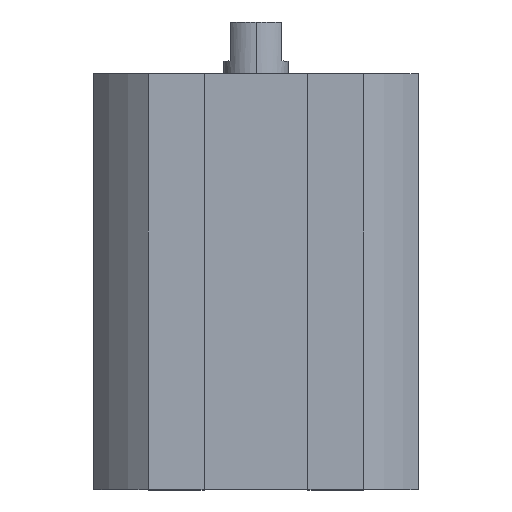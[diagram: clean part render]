
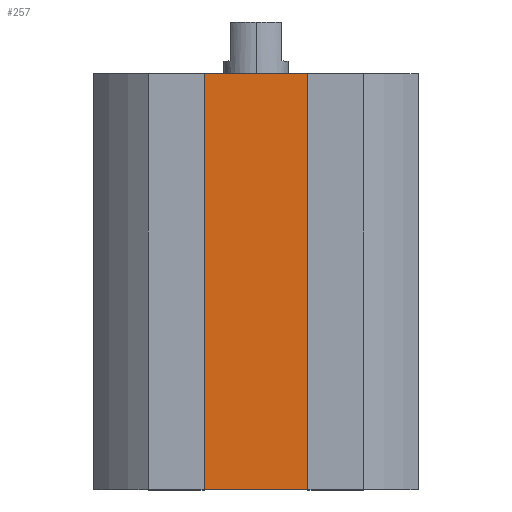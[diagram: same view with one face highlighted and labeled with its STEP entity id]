
A CAD part, top view. The second image highlights one B-rep face of the part: STEP entity #257.
In plain terms, the highlighted planar face has unit normal (0, 0, 1).
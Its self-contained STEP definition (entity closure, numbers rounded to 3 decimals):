
#17 = VERTEX_POINT ( 'NONE', #530 ) ;
#22 = DIRECTION ( 'NONE',  ( 1., 0., 0. ) ) ;
#35 = CARTESIAN_POINT ( 'NONE',  ( 0., -32., 7.8 ) ) ;
#130 = VECTOR ( 'NONE', #1937, 1000. ) ;
#162 = LINE ( 'NONE', #258, #288 ) ;
#195 = ORIENTED_EDGE ( 'NONE', *, *, #265, .F. ) ;
#257 = ADVANCED_FACE ( 'NONE', ( #1798 ), #1096, .T. ) ;
#258 = CARTESIAN_POINT ( 'NONE',  ( 0., 0., 7.8 ) ) ;
#265 = EDGE_CURVE ( 'NONE', #1578, #17, #402, .T. ) ;
#288 = VECTOR ( 'NONE', #1468, 1000. ) ;
#349 = ORIENTED_EDGE ( 'NONE', *, *, #748, .T. ) ;
#392 = EDGE_CURVE ( 'NONE', #17, #620, #162, .T. ) ;
#402 = LINE ( 'NONE', #2101, #2192 ) ;
#482 = VECTOR ( 'NONE', #22, 1000. ) ;
#514 = VERTEX_POINT ( 'NONE', #1353 ) ;
#530 = CARTESIAN_POINT ( 'NONE',  ( -4., 0., 7.8 ) ) ;
#620 = VERTEX_POINT ( 'NONE', #1227 ) ;
#748 = EDGE_CURVE ( 'NONE', #514, #620, #2026, .T. ) ;
#847 = EDGE_LOOP ( 'NONE', ( #2124, #195, #1224, #349 ) ) ;
#1096 = PLANE ( 'NONE',  #1995 ) ;
#1206 = CARTESIAN_POINT ( 'NONE',  ( -4., -32., 7.8 ) ) ;
#1224 = ORIENTED_EDGE ( 'NONE', *, *, #1646, .T. ) ;
#1227 = CARTESIAN_POINT ( 'NONE',  ( 4., 0., 7.8 ) ) ;
#1294 = DIRECTION ( 'NONE',  ( 0., 1., 0. ) ) ;
#1353 = CARTESIAN_POINT ( 'NONE',  ( 4., -32., 7.8 ) ) ;
#1413 = CARTESIAN_POINT ( 'NONE',  ( 4., -32., 7.8 ) ) ;
#1438 = DIRECTION ( 'NONE',  ( 0., 0., 1. ) ) ;
#1468 = DIRECTION ( 'NONE',  ( 1., 0., 0. ) ) ;
#1578 = VERTEX_POINT ( 'NONE', #1206 ) ;
#1603 = CARTESIAN_POINT ( 'NONE',  ( 0., -32., 7.8 ) ) ;
#1646 = EDGE_CURVE ( 'NONE', #1578, #514, #2082, .T. ) ;
#1798 = FACE_OUTER_BOUND ( 'NONE', #847, .T. ) ;
#1937 = DIRECTION ( 'NONE',  ( 0., 1., 0. ) ) ;
#1995 = AXIS2_PLACEMENT_3D ( 'NONE', #1603, #1438, #2138 ) ;
#2026 = LINE ( 'NONE', #1413, #130 ) ;
#2082 = LINE ( 'NONE', #35, #482 ) ;
#2101 = CARTESIAN_POINT ( 'NONE',  ( -4., -32., 7.8 ) ) ;
#2124 = ORIENTED_EDGE ( 'NONE', *, *, #392, .F. ) ;
#2138 = DIRECTION ( 'NONE',  ( 1., 0., 0. ) ) ;
#2192 = VECTOR ( 'NONE', #1294, 1000. ) ;
